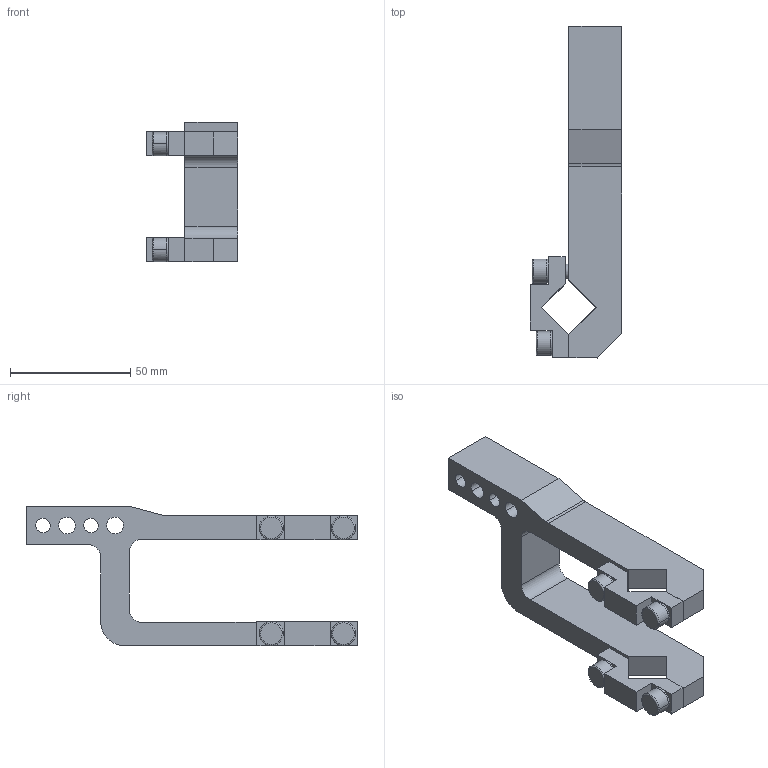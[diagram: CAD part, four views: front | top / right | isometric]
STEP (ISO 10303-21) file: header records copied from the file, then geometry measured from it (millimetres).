
FILE_DESCRIPTION(('CATIA V5 STEP Exchange'),'2;1');
FILE_NAME('E:\clampact\CLAMPACT\clampact\catalog\Clampact Arm\Arm 3D\Clampact Arm\arm_K40_00_2A51_Clampact.stp','2022-12-07T04:54:57+00:00',('none'),('none'),'CATIA Version 5 Release 19 SP 6 (IN-10)','CATIA V5 STEP AP203','none');
FILE_SCHEMA(('CONFIG_CONTROL_DESIGN'));
Length unit declared in the file: millimetre
Products named in the file (1): K40_00_2A51_Clampact_柯莱普
Bounding box: 38 x 138 x 58 mm (x, y, z)
Volume: 69729.1 mm3; surface area: 24378.2 mm2
Topology: 1 solids, 5 shells, 149 faces, 369 edges, 230 vertices
Faces by surface type: plane 72, cylinder 45, cone 20, torus 12
Entity records: 4145 total; most frequent: CARTESIAN_POINT 773, ORIENTED_EDGE 722, DIRECTION 577, EDGE_CURVE 361, AXIS2_PLACEMENT_3D 248, VERTEX_POINT 230, VECTOR 216, LINE 216
